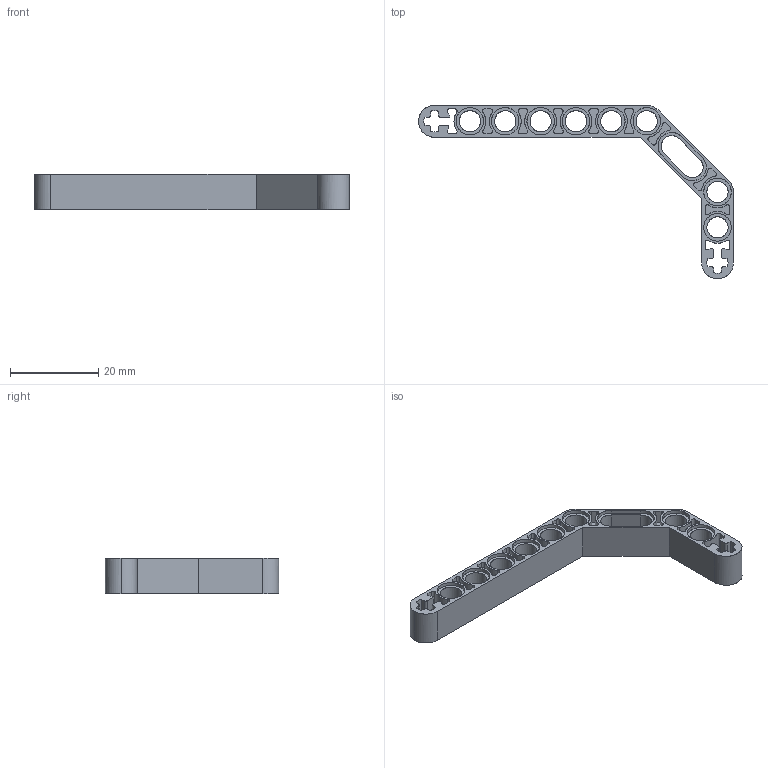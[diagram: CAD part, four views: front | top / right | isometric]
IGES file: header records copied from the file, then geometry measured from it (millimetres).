
Start section: C
Global section: file name: Black_4111998_AVV.iges; native system: By Siemens PLM Incorporated; preprocessor: XPlus GENERIC/IGES 26.1.183; author: Author; organization: Title; date: 20250721.234427; units: millimetre
Bounding box: 71.2 x 39.2 x 8 mm (x, y, z)
Surface area: 4911.3 mm2 (no closed solid volume)
Topology: 0 solids, 0 shells, 316 faces, 1776 edges, 1776 vertices
Faces by surface type: bspline 316
